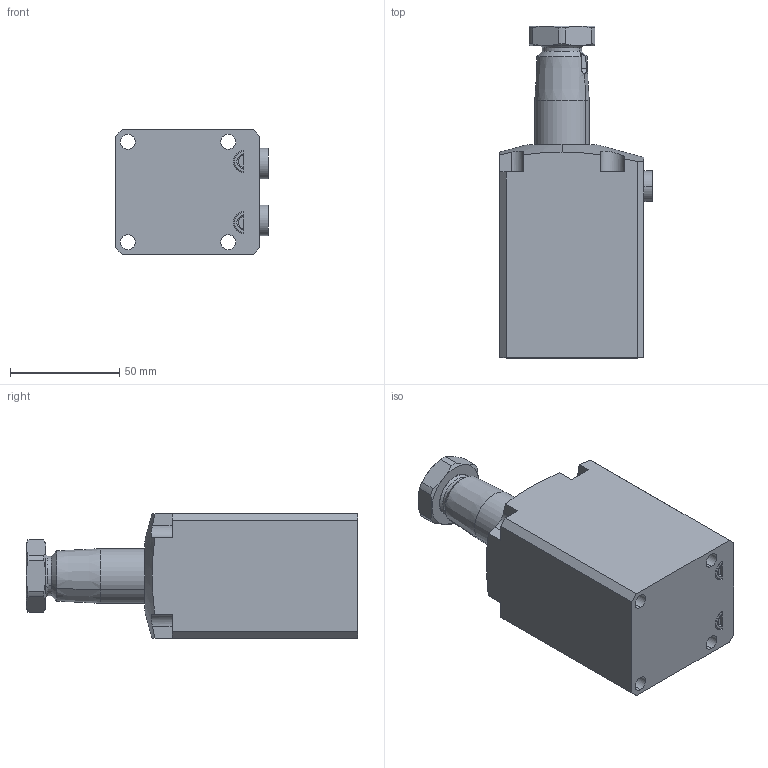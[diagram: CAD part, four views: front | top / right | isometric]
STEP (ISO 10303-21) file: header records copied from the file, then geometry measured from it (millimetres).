
FILE_DESCRIPTION(/* description */ (''),/* implementation_level */ '2;1');
FILE_NAME(/* name */ 'BRC06-LN30.stp',/* time_stamp */ '2025-01-05T09:22:13+08:00',/* author */ (''),/* organization */ (''),/* preprocessor_version */ 'ST-DEVELOPER v16.7',/* originating_system */ 'SIEMENS PLM Software NX 12.0',/* authorisation */ '');
FILE_SCHEMA (('AUTOMOTIVE_DESIGN { 1 0 10303 214 3 1 1 1 }'));
Length unit declared in the file: millimetre
Products named in the file (5): BRC06-LN30-03; BRC06-LN30-04; BRC06-LN30-02; BRC06-LN30-01; BRC06-LN30_stp
Assembly tree (5 placements, depth 2):
  BRC06-LN30_stp
    BRC06-LN30-01
    BRC06-LN30-02
    BRC06-LN30-04  x2
    BRC06-LN30-03
Bounding box: 69.8 x 151.8 x 57 mm (x, y, z)
Volume: 359535.8 mm3; surface area: 48308.3 mm2
Topology: 7 solids, 7 shells, 170 faces, 395 edges, 248 vertices
Faces by surface type: plane 72, cylinder 53, cone 34, torus 10, sphere 1
Full cylindrical faces by diameter (mm): 8.5 x2
Entity records: 4745 total; most frequent: CARTESIAN_POINT 1170, DIRECTION 722, ORIENTED_EDGE 700, EDGE_CURVE 350, AXIS2_PLACEMENT_3D 281, VERTEX_POINT 222, EDGE_LOOP 174, LINE 160
